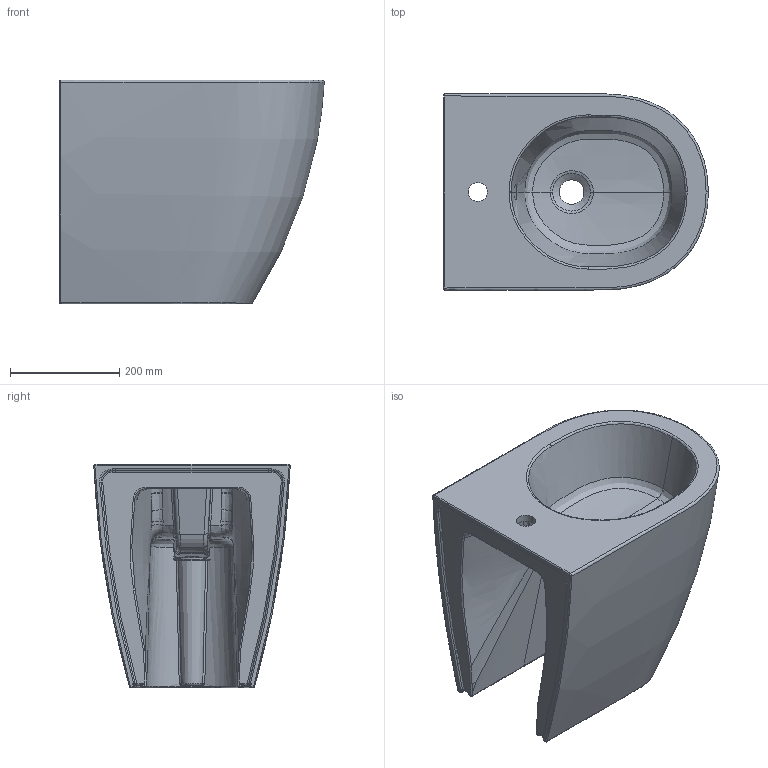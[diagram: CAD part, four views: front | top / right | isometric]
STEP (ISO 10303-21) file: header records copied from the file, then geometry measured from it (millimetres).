
FILE_DESCRIPTION(/* description */ (''),/* implementation_level */ '2;1');
FILE_NAME(/* name */ 'BIDET_FUSION_COMPACT_485_BTW_PROTAP01_20220715.stp',/* time_stamp */ '2022-07-15T11:53:38+02:00',/* author */ (''),/* organization */ (''),/* preprocessor_version */ 'ST-DEVELOPER v16.7',/* originating_system */ 'SIEMENS PLM Software NX 1847',/* authorisation */ '');
FILE_SCHEMA (('AUTOMOTIVE_DESIGN { 1 0 10303 214 3 1 1 1 }'));
Length unit declared in the file: millimetre
Products named in the file (1): Dani5F90908F1rr2
Bounding box: 484.77 x 359.86 x 410 mm (x, y, z)
Volume: 28084772.1 mm3; surface area: 1076050.6 mm2
Topology: 1 solids, 1 shells, 269 faces, 661 edges, 369 vertices
Faces by surface type: bspline 187, cylinder 38, plane 17, sphere 14, torus 10, cone 3
Full cylindrical faces by diameter (mm): 35 x1, 45 x1
Entity records: 24720 total; most frequent: CARTESIAN_POINT 19922, ORIENTED_EDGE 1260, EDGE_CURVE 630, DIRECTION 603, B_SPLINE_CURVE_WITH_KNOTS 375, VERTEX_POINT 368, EDGE_LOOP 278, ADVANCED_FACE 269
